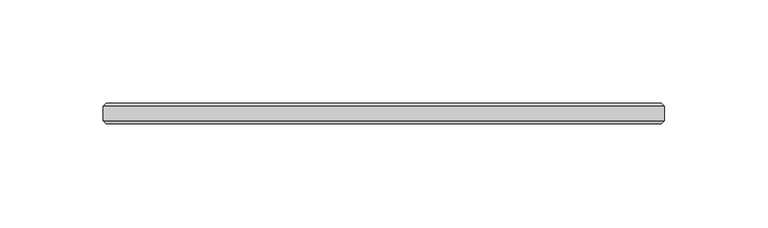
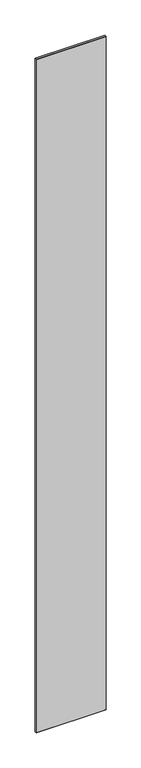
"""IFC4 building model written with IfcOpenShell, lengths in millimetres: plate geometry, 11-AMG-1-Панель одинарный витраж 10-12 : Центр Толщина 10mm."""

from ifc_helpers import new_model, si_unit, origin, place, context, project, spatial, faceted_brep, source, transform, mapped, element, save


def plate_8324db89(model_context):
    return source(origin(), model_context, "Body", "Brep", [
        faceted_brep([(139.25, -3.4961653, 2777.0), (139.25, 3.4961653, 2777.0), (-133.25, 3.4961653, 2777.0), (-133.25, -3.4961653, 2777.0), (139.25, 3.4961653, 5.0), (139.25, -3.4961653, 5.0), (-133.25, -3.4961653, 5.0), (-133.25, 3.4961653, 5.0), (-131.7461653, 5.0, 2775.4961653), (137.7461653, 5.0, 2775.4961653), (137.7461653, 5.0, 6.4960578), (-131.7461653, 5.0, 6.4960578), (137.7461653, -5.0, 2775.4961653), (-131.7461653, -5.0, 2775.4961653), (-131.7461653, -5.0, 6.5038347), (137.7461653, -5.0, 6.5038347)], [[[0, 1, 2, 3]], [[4, 5, 6, 7]], [[8, 9, 10, 11]], [[3, 2, 7, 6]], [[12, 13, 14, 15]], [[1, 0, 5, 4]], [[1, 4, 10, 9]], [[5, 0, 12, 15]], [[7, 2, 8, 11]], [[3, 6, 14, 13]], [[0, 3, 13, 12]], [[2, 1, 9, 8]], [[6, 5, 15, 14]], [[4, 7, 11, 10]]]),
    ])


if __name__ == "__main__":
    model = new_model("IFC4")
    model_context = context("Model", 3, world=origin())
    ifc_project = project(units=[si_unit("LENGTHUNIT", "METRE", prefix="MILLI")], contexts=[model_context])
    site = spatial("IfcSite", under=ifc_project)
    building = spatial("IfcBuilding", under=site)
    placement = place(None, origin())
    plate_shape = plate_8324db89(model_context)
    element("IfcPlate", 1, ObjectType="11-AMG-1-Панель одинарный витраж 10-12 : Центр Толщина 10mm", at=placement, inside=building, context=model_context, shape_type="MappedRepresentation", body=[
        mapped(plate_shape, transform((0.0, 0.0, 0.0), x_axis=(1.0, 0.0, 0.0), y_axis=(0.0, 1.0, 0.0), z_axis=(0.0, 0.0, 1.0))),
    ])
    save(model, "model.ifc")
